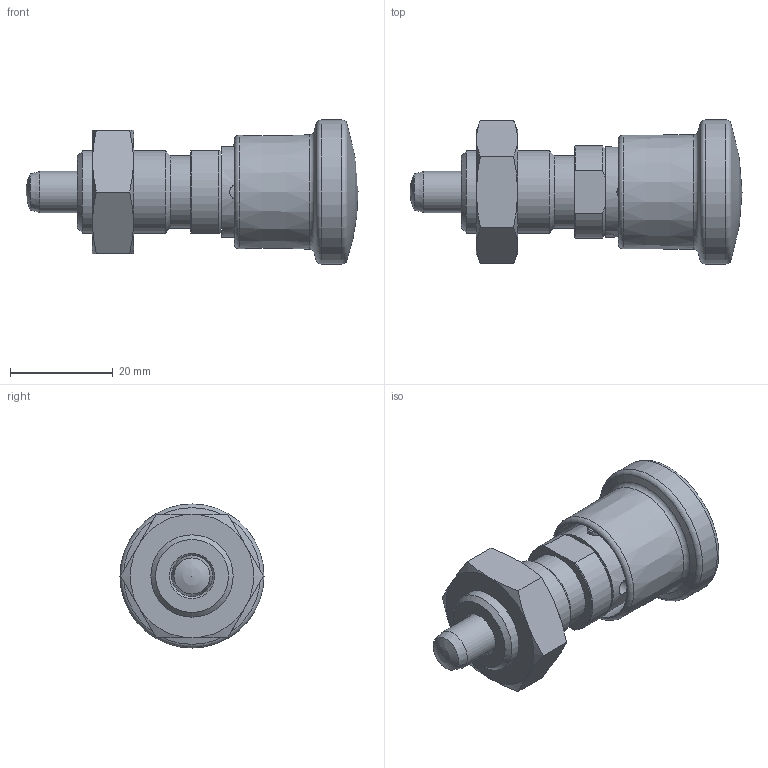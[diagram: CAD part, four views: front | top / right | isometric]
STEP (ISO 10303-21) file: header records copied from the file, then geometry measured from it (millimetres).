
FILE_DESCRIPTION( ( 'STEP AP203' ), '1' );
FILE_NAME( 'C:/Temp/Ganter_Step_05_03_2020/data/3_1/gn816_1/gn_816_1_ark/Locking plunger GN 816.1-8-M16x1,5-ARK (activated).stp', '2020-03-12T08:56:17', ( 'License CC BY-ND 4.0' ), ( 'CADENAS' ), ' ', 'PARTsolutions', ' ' );
FILE_SCHEMA( ( 'CONFIG_CONTROL_DESIGN' ) );
Length unit declared in the file: millimetre
Products named in the file (4): Locking plunger GN 816.1-8-M16x1,5-ARK (activated); _GN 816.1-8-M16x1,5-AR (activated)-2; _GN 816.1-8-M16x1,5-AR (activated)-1; _Lock nut ISO 8675 GN 816-8-M16x1,5-AK
Assembly tree (3 placements, depth 2):
  Locking plunger GN 816.1-8-M16x1,5-ARK (activated)
    _GN 816.1-8-M16x1,5-AR (activated)-2
    _GN 816.1-8-M16x1,5-AR (activated)-1
    _Lock nut ISO 8675 GN 816-8-M16x1,5-AK
Bounding box: 64.5 x 28 x 28 mm (x, y, z)
Volume: 16901.3 mm3; surface area: 12075.4 mm2
Topology: 3 solids, 3 shells, 78 faces, 165 edges, 101 vertices
Faces by surface type: cone 31, plane 22, cylinder 17, torus 6, sphere 2
Full cylindrical faces by diameter (mm): 2.9 x1, 3 x3, 8 x2, 11 x1, 11.1 x1, 14.2 x2, 14.376 x1, 16 x1, 18.2 x1, 20.017 x1, 28 x1
Entity records: 2409 total; most frequent: CARTESIAN_POINT 809, DIRECTION 308, ORIENTED_EDGE 236, AXIS2_PLACEMENT_3D 147, EDGE_LOOP 134, EDGE_CURVE 118, FACE_OUTER_BOUND 99, VERTEX_POINT 94
